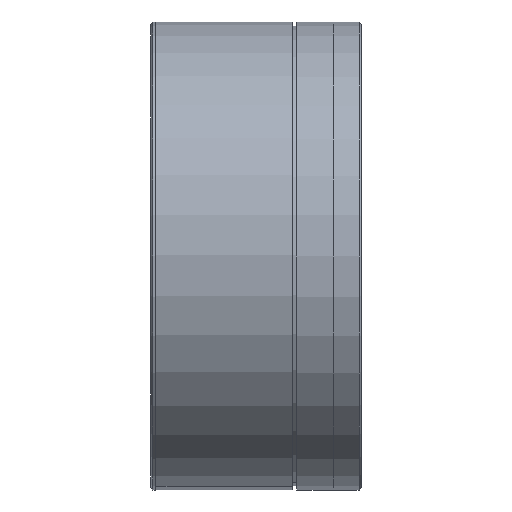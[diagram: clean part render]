
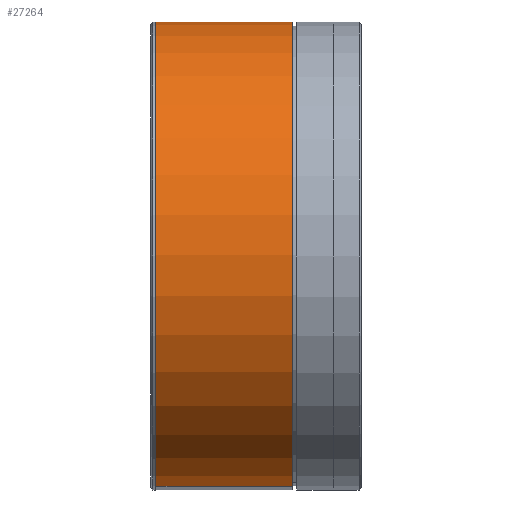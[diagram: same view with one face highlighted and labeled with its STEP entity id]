
A CAD part, left-side view. The second image highlights one B-rep face of the part: STEP entity #27264.
In plain terms, the highlighted cylindrical face has radius 54.5 mm (diameter 109 mm), a partial arc.
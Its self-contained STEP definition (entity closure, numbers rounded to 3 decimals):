
#1025 = EDGE_LOOP ( 'NONE', ( #20116, #31134, #15014, #15704 ) ) ;
#2553 = VERTEX_POINT ( 'NONE', #11766 ) ;
#2792 = AXIS2_PLACEMENT_3D ( 'NONE', #37009, #33624, #8772 ) ;
#3812 = CARTESIAN_POINT ( 'NONE',  ( 0., 17.8, 0. ) ) ;
#3874 = EDGE_CURVE ( 'NONE', #38032, #28905, #19398, .T. ) ;
#3883 = CARTESIAN_POINT ( 'NONE',  ( -9.635, 18., -53.642 ) ) ;
#6758 = VERTEX_POINT ( 'NONE', #19772 ) ;
#7471 = DIRECTION ( 'NONE',  ( 0., -1., 0. ) ) ;
#8662 = CYLINDRICAL_SURFACE ( 'NONE', #2792, 54.5 ) ;
#8772 = DIRECTION ( 'NONE',  ( -0.177, 0., -0.984 ) ) ;
#10791 = DIRECTION ( 'NONE',  ( -0.177, 0., -0.984 ) ) ;
#11045 = VECTOR ( 'NONE', #7471, 1000. ) ;
#11766 = CARTESIAN_POINT ( 'NONE',  ( 9.635, 17.8, 53.642 ) ) ;
#13281 = CARTESIAN_POINT ( 'NONE',  ( 0., -14., 0. ) ) ;
#14302 = CIRCLE ( 'NONE', #29684, 54.5 ) ;
#15014 = ORIENTED_EDGE ( 'NONE', *, *, #35404, .T. ) ;
#15704 = ORIENTED_EDGE ( 'NONE', *, *, #3874, .F. ) ;
#16030 = FACE_OUTER_BOUND ( 'NONE', #1025, .T. ) ;
#16114 = CARTESIAN_POINT ( 'NONE',  ( 9.635, 18., 53.642 ) ) ;
#19374 = DIRECTION ( 'NONE',  ( 0., -1., 0. ) ) ;
#19398 = CIRCLE ( 'NONE', #27150, 54.5 ) ;
#19772 = CARTESIAN_POINT ( 'NONE',  ( -9.635, 17.8, -53.642 ) ) ;
#19844 = LINE ( 'NONE', #3883, #11045 ) ;
#19985 = CARTESIAN_POINT ( 'NONE',  ( 9.635, -14., 53.642 ) ) ;
#20116 = ORIENTED_EDGE ( 'NONE', *, *, #33699, .F. ) ;
#20923 = CARTESIAN_POINT ( 'NONE',  ( -9.635, -14., -53.642 ) ) ;
#22083 = VECTOR ( 'NONE', #19374, 1000. ) ;
#25840 = DIRECTION ( 'NONE',  ( -0.177, 0., -0.984 ) ) ;
#27150 = AXIS2_PLACEMENT_3D ( 'NONE', #13281, #28977, #25840 ) ;
#27264 = ADVANCED_FACE ( 'NONE', ( #16030 ), #8662, .T. ) ;
#28905 = VERTEX_POINT ( 'NONE', #20923 ) ;
#28977 = DIRECTION ( 'NONE',  ( 0., -1., 0. ) ) ;
#29684 = AXIS2_PLACEMENT_3D ( 'NONE', #3812, #31423, #10791 ) ;
#30380 = LINE ( 'NONE', #16114, #22083 ) ;
#31134 = ORIENTED_EDGE ( 'NONE', *, *, #31162, .F. ) ;
#31162 = EDGE_CURVE ( 'NONE', #6758, #2553, #14302, .T. ) ;
#31423 = DIRECTION ( 'NONE',  ( 0., 1., 0. ) ) ;
#33624 = DIRECTION ( 'NONE',  ( 0., -1., 0. ) ) ;
#33699 = EDGE_CURVE ( 'NONE', #2553, #38032, #30380, .T. ) ;
#35404 = EDGE_CURVE ( 'NONE', #6758, #28905, #19844, .T. ) ;
#37009 = CARTESIAN_POINT ( 'NONE',  ( 0., 18., 0. ) ) ;
#38032 = VERTEX_POINT ( 'NONE', #19985 ) ;
